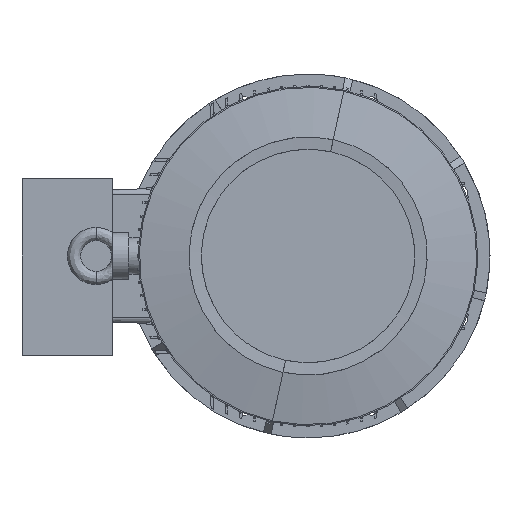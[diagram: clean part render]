
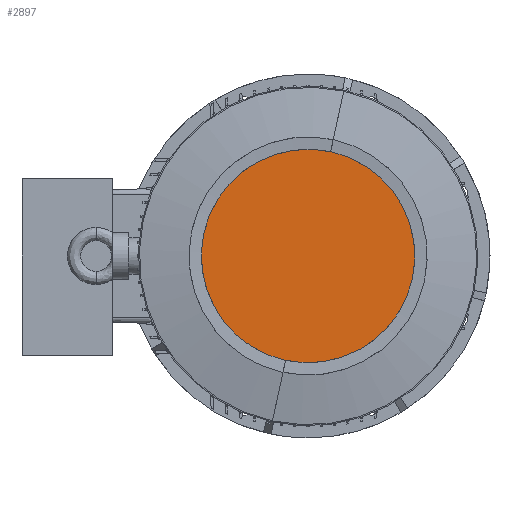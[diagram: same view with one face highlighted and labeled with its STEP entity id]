
A CAD part, left-side view. The second image highlights one B-rep face of the part: STEP entity #2897.
In plain terms, the highlighted planar face has unit normal (-1, 0, 0) as drawn and (1, 0, 0) by its records, which use the part's own axes.
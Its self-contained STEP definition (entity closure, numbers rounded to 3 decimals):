
#2897 = ADVANCED_FACE ( 'NONE', ( #19908 ), #29812, .F. ) ;
#4527 = EDGE_CURVE ( 'NONE', #18944, #18938, #21462, .T. ) ;
#4569 = EDGE_CURVE ( 'NONE', #18938, #18944, #21529, .T. ) ;
#13283 = AXIS2_PLACEMENT_3D ( 'NONE', #29808, #29823, #29790 ) ;
#13479 = AXIS2_PLACEMENT_3D ( 'NONE', #21130, #21131, #21114 ) ;
#13555 = AXIS2_PLACEMENT_3D ( 'NONE', #21245, #21233, #21246 ) ;
#17727 = EDGE_LOOP ( 'NONE', ( #18240, #18214 ) ) ;
#18214 = ORIENTED_EDGE ( 'NONE', *, *, #4569, .T. ) ;
#18240 = ORIENTED_EDGE ( 'NONE', *, *, #4527, .T. ) ;
#18938 = VERTEX_POINT ( 'NONE', #25895 ) ;
#18944 = VERTEX_POINT ( 'NONE', #25917 ) ;
#19908 = FACE_OUTER_BOUND ( 'NONE', #17727, .T. ) ;
#21114 = DIRECTION ( 'NONE',  ( 0., 0., -1. ) ) ;
#21130 = CARTESIAN_POINT ( 'NONE',  ( 338., 0., 0. ) ) ;
#21131 = DIRECTION ( 'NONE',  ( 1., 0., 0. ) ) ;
#21233 = DIRECTION ( 'NONE',  ( 1., 0., 0. ) ) ;
#21245 = CARTESIAN_POINT ( 'NONE',  ( 338., 0., 0. ) ) ;
#21246 = DIRECTION ( 'NONE',  ( 0., 0., -1. ) ) ;
#21462 = CIRCLE ( 'NONE', #13479, 193.623 ) ;
#21529 = CIRCLE ( 'NONE', #13555, 193.623 ) ;
#25895 = CARTESIAN_POINT ( 'NONE',  ( 338., 0., 193.623 ) ) ;
#25917 = CARTESIAN_POINT ( 'NONE',  ( 338., 0., -193.623 ) ) ;
#29790 = DIRECTION ( 'NONE',  ( 0., 0., 1. ) ) ;
#29808 = CARTESIAN_POINT ( 'NONE',  ( 338., 193.623, 0. ) ) ;
#29812 = PLANE ( 'NONE',  #13283 ) ;
#29823 = DIRECTION ( 'NONE',  ( -1., 0., 0. ) ) ;
